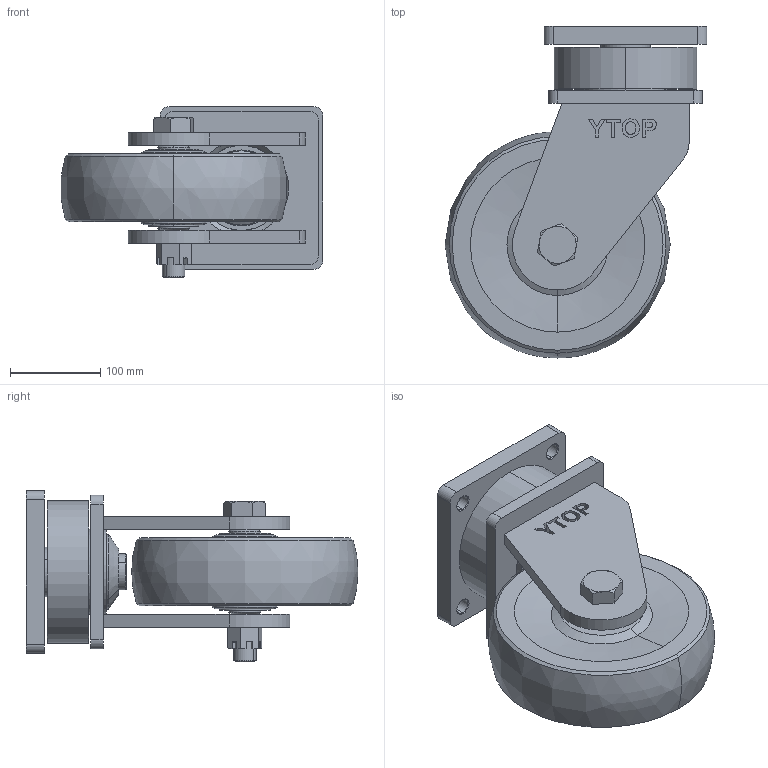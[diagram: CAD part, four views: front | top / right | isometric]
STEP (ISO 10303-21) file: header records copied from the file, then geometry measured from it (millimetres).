
FILE_DESCRIPTION (( 'STEP AP203' ), '1' );
FILE_NAME ('26-250H-75-MC.STEP', '2022-08-20T04:05:34', ( '' ), ( '' ), 'SwSTEP 2.0', 'SolidWorks 2016', '' );
FILE_SCHEMA (( 'CONFIG_CONTROL_DESIGN' ));
Length unit declared in the file: millimetre
Products named in the file (1): 26-250H-75-MC
Bounding box: 289.41 x 366.75 x 189 mm (x, y, z)
Volume: 6353159.5 mm3; surface area: 557276.4 mm2
Topology: 10 solids, 10 shells, 348 faces, 851 edges, 551 vertices
Faces by surface type: plane 151, cylinder 82, cone 77, bspline 38
Entity records: 12664 total; most frequent: CARTESIAN_POINT 4476, ORIENTED_EDGE 1702, DIRECTION 1607, EDGE_CURVE 851, AXIS2_PLACEMENT_3D 572, VERTEX_POINT 551, VECTOR 463, LINE 463
